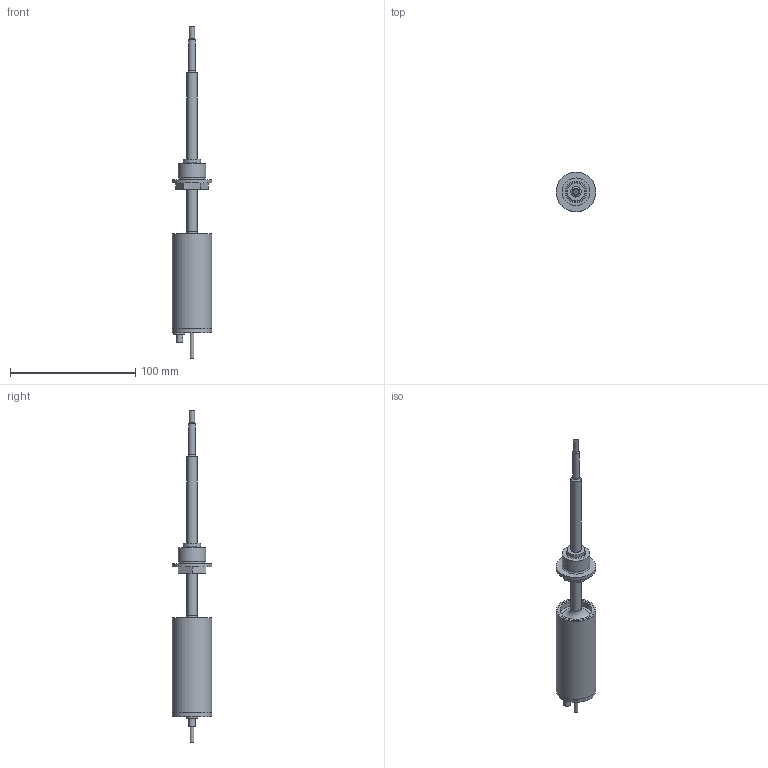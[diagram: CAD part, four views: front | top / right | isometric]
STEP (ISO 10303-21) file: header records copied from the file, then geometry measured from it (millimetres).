
FILE_DESCRIPTION((''),'2;1');
FILE_NAME('Y:\Desktop\AutoDesk\Atomizer Nozzles\40kHz\HTNS40E.stp','2018-10-11T12:59:47',('Owner'),(''),'Autodesk Inventor 2013','Autodesk Inventor 2013','');
FILE_SCHEMA(('AUTOMOTIVE_DESIGN { 1 0 10303 214 1 1 1 1 }'));
Length unit declared in the file: inch
Products named in the file (8): ht nozzle; long case; tip extended ns; electrical connector; top tube; lid; 1-64 screw; son00923 case ring
Assembly tree (10 placements, depth 2):
  ht nozzle
    long case
    tip extended ns
    electrical connector
    top tube
    lid
    1-64 screw  x4
    son00923 case ring
Bounding box: 31.75 x 31.75 x 265.29 mm (x, y, z)
Volume: 35631.7 mm3; surface area: 29260.9 mm2
Topology: 10 solids, 10 shells, 153 faces, 287 edges, 187 vertices
Faces by surface type: plane 85, cylinder 50, torus 13, cone 5
Full cylindrical faces by diameter (mm): 0.305 x1, 0.457 x1, 1.016 x1, 1.27 x1, 1.829 x1, 1.854 x12, 1.984 x2, 2.845 x4, 2.997 x4, 3.175 x2, 4.102 x1, 4.623 x1, 5.182 x1, 5.537 x1, 8.255 x2, 8.712 x1, 8.992 x1, 14.275 x1, 17.221 x1, 22.225 x1, 25.4 x3, 29.007 x1, 29.083 x1, 31.496 x1, 31.547 x1, 31.75 x1
Entity records: 2695 total; most frequent: DIRECTION 488, CARTESIAN_POINT 388, ORIENTED_EDGE 278, AXIS2_PLACEMENT_3D 223, EDGE_LOOP 204, EDGE_CURVE 139, VERTEX_POINT 123, FACE_OUTER_BOUND 108
